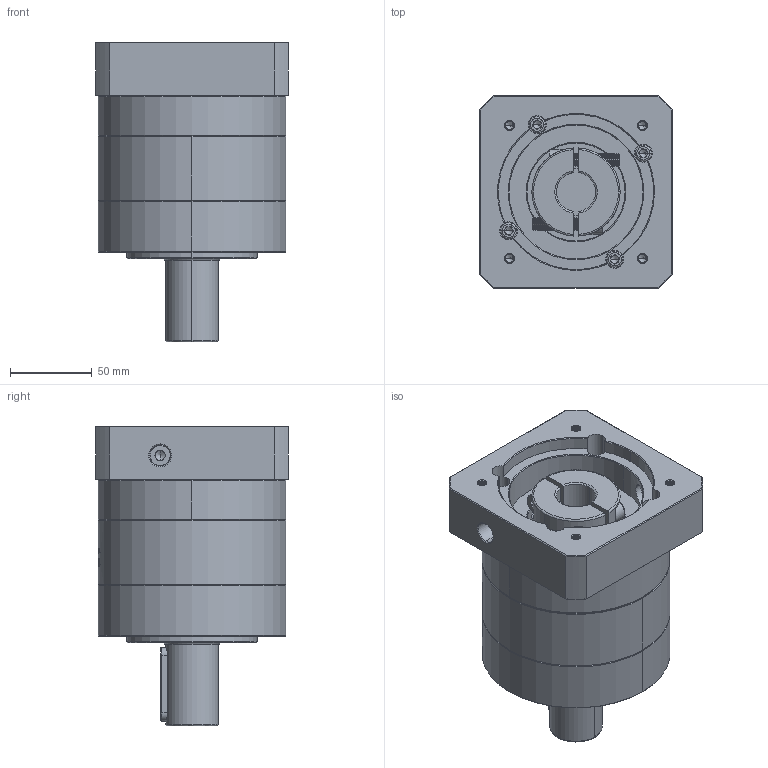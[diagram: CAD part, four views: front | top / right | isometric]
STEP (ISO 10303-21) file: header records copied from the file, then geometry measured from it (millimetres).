
FILE_DESCRIPTION (( 'STEP AP214' ), '1' );
FILE_NAME ('ZE120A-D32-L1-24-95-115-M6.step', '2023-03-09T06:27:42', ( '' ), ( '' ), 'SwSTEP 2.0', 'SolidWorks 2016', '' );
FILE_SCHEMA (( 'AUTOMOTIVE_DESIGN' ));
Length unit declared in the file: millimetre
Products named in the file (1): ZE120A-D32-L1-24-95-115-M6
Bounding box: 118 x 118 x 183.5 mm (x, y, z)
Volume: 1318351.4 mm3; surface area: 153453.4 mm2
Topology: 6 solids, 6 shells, 2046 faces, 5413 edges, 3460 vertices
Faces by surface type: plane 836, cylinder 519, bspline 353, cone 338
Entity records: 118712 total; most frequent: CARTESIAN_POINT 50114, ORIENTED_EDGE 10750, DIRECTION 8110, EDGE_CURVE 5375, VERTEX_POINT 3460, LINE 2806, VECTOR 2806, AXIS2_PLACEMENT_3D 2652
